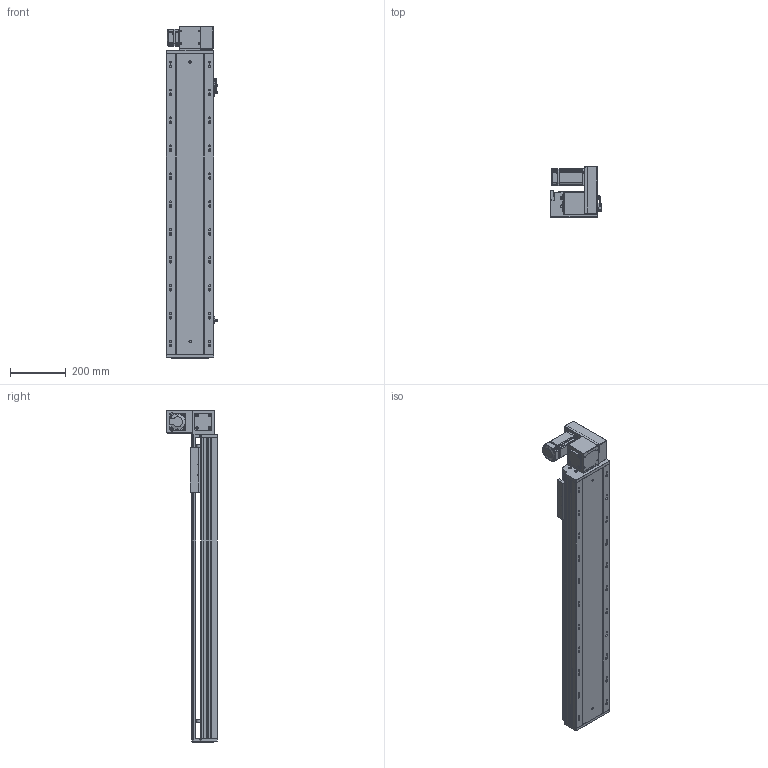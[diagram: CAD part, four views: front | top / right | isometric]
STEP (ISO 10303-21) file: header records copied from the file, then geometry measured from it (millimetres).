
FILE_DESCRIPTION (( 'STEP AP203' ), '1' );
FILE_NAME ('RY170-T-300-UR-P400W.SLDASM_800.step', '2021-03-01T09:27:29', ( '盈信电脑' ), ( '东莞市道滘镇水果街19号' ), 'SwSTEP 2.0', 'SolidWorks 2012', '' );
FILE_SCHEMA (( 'CONFIG_CONTROL_DESIGN' ));
Products named in the file (18): RY170-T-300-UR-P400W.SLDASM_800; 15; RY170-T蹟翐M4; 滅袉蝶18-10; RY170-T肮祭湍揤踡輸1; RY170-T肮祭湍揤踡輸2; RY120-T主同步轮轴承压盖; RY170-T肮祭謫裔啣; RY170肮祭謫萇儂欶; RY170翋肮祭謫釱; RY170肮祭謫ヶ裔啣; RY170同步轮电机安装板(400W); RY170綴裔啣; 覜茼ん672; RY170外置感应片(200共用）; RY170肮祭湍臏賑輸; RY170-T-300肮祭謫倰第裔啣-DR_800; RY170-T-300肮祭謫倰第菁釱-DR_800
Assembly tree (22 placements, depth 2):
  RY170-T-300-UR-P400W.SLDASM_800
    RY170-T-300肮祭謫倰第菁釱-DR_800
    RY170肮祭湍臏賑輸
    RY170-T-300肮祭謫倰第裔啣-DR_800
    RY170綴裔啣
    覜茼ん672  x3
    RY170外置感应片(200共用）
    RY170肮祭謫ヶ裔啣
    RY170翋肮祭謫釱
    RY170同步轮电机安装板(400W)
    RY170肮祭謫萇儂欶
    RY170-T肮祭湍揤踡輸1  x2
    RY170-T肮祭湍揤踡輸2  x2
    RY120-T主同步轮轴承压盖
    RY170-T肮祭謫裔啣
    RY170-T蹟翐M4
    滅袉蝶18-10  x2
    15
Bounding box: 183.7 x 182 x 1188 mm (x, y, z)
Volume: 6060274.6 mm3; surface area: 2053195.3 mm2
Topology: 22 solids, 22 shells, 2824 faces, 7946 edges, 5119 vertices
Faces by surface type: cylinder 1302, plane 1268, cone 224, bspline 30
Entity records: 86208 total; most frequent: CARTESIAN_POINT 20086, ORIENTED_EDGE 13624, DIRECTION 13146, EDGE_CURVE 6812, AXIS2_PLACEMENT_3D 4629, VERTEX_POINT 4475, LINE 3888, VECTOR 3888
